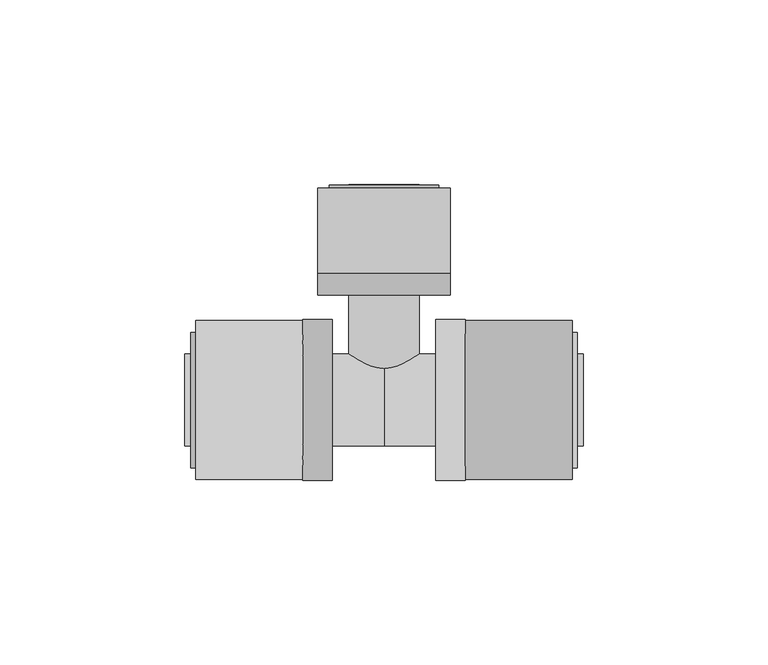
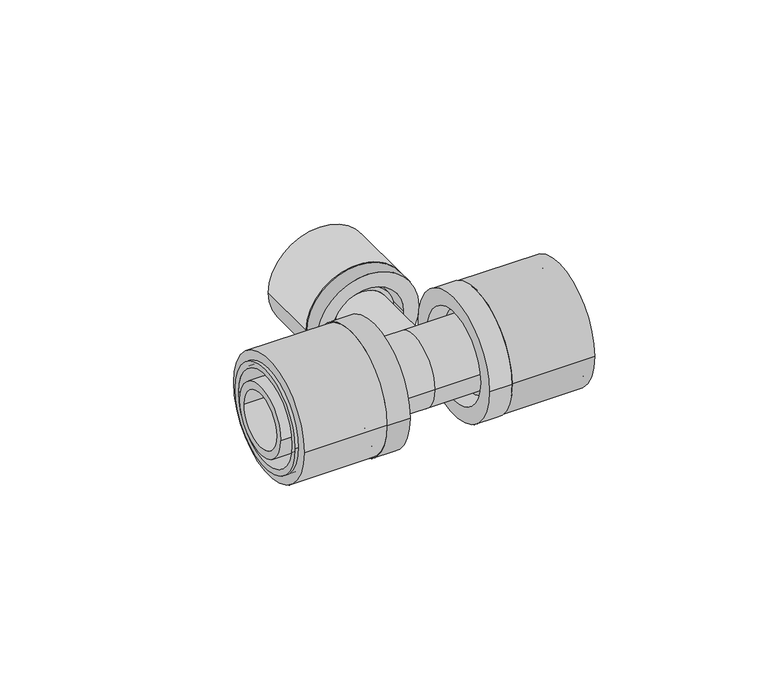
"""IFC4 building model written with IfcOpenShell, lengths in millimetres: pipe fitting geometry, FASTLOC_T-piece_EX+ : FSL T-Piece EX+ AT."""

from ifc_helpers import new_model, si_unit, point, frame, origin, origin_2d, place, context, project, spatial, polyline, circle_curve, trimmed, segment, composite_curve, outline, extrude, source, transform, mapped, element, save
from ifc_brep_helpers import plane_surface, cylinder_surface, revolved_surface, advanced_brep


def pipe_fitting_137fcba6(model_context):
    return source(origin(), model_context, "Body", "SolidModel", [
        extrude(outline(composite_curve([segment(trimmed(circle_curve(origin_2d(), 21.5), [point((-21.5, 0.0))], [point((21.5, 0.0))], False, "CARTESIAN"), True, "CONTINUOUS"), segment(trimmed(circle_curve(origin_2d(), 21.5), [point((21.5, 0.0))], [point((-21.5, 0.0))], False, "CARTESIAN"), True, "CONTINUOUS")], self_intersect=False), holes=[composite_curve([segment(trimmed(circle_curve(origin_2d(), 16.85), [point((-16.85, 0.0))], [point((16.85, 0.0))], True, "CARTESIAN"), True, "CONTINUOUS"), segment(trimmed(circle_curve(origin_2d(), 16.85), [point((16.85, 0.0))], [point((-16.85, 0.0))], True, "CARTESIAN"), True, "CONTINUOUS")], self_intersect=False)]), frame((22.0, 0.0, 0.0), z_axis=(1.0, 0.0, 0.0), x_axis=(0.0, 1.0, 0.0)), (0.0, 0.0, 1.0), 29.0),
        advanced_brep(
        [(22.0, 21.8, 0.0), (22.0, -21.8, 0.0), (14.0, -21.8, 0.0), (14.0, 21.8, 0.0), (52.3, 18.35, 0.0), (52.3, -18.35, 0.0), (22.0, -18.35, 0.0), (22.0, 18.35, 0.0), (14.0, 16.2, 0.0), (14.0, -16.2, 0.0), (52.3, -16.2, 0.0), (52.3, 16.2, 0.0)],
        [
            (0, 1, circle_curve(frame((22.0, 0.0, 0.0), z_axis=(-1.0, 0.0, 0.0), x_axis=(0.0, -1.0, 0.0)), 21.8)),
            (1, 2),
            (2, 3, circle_curve(frame((14.0, 0.0, 0.0), z_axis=(1.0, 0.0, 0.0), x_axis=(0.0, -1.0, 0.0)), 21.8)),
            (3, 0),
            (4, 5, circle_curve(frame((52.3, 0.0, 0.0), z_axis=(-1.0, 0.0, 0.0), x_axis=(0.0, -1.0, 0.0)), 18.35)),
            (5, 6),
            (6, 7, circle_curve(frame((22.0, 0.0, 0.0), z_axis=(1.0, 0.0, 0.0), x_axis=(0.0, -1.0, 0.0)), 18.35)),
            (7, 4),
            (8, 9, circle_curve(frame((14.0, 0.0, 0.0), z_axis=(-1.0, 0.0, 0.0), x_axis=(0.0, -1.0, 0.0)), 16.2)),
            (9, 10),
            (10, 11, circle_curve(frame((52.3, 0.0, 0.0), z_axis=(1.0, 0.0, 0.0), x_axis=(0.0, -1.0, 0.0)), 16.2)),
            (11, 8),
            (1, 0, circle_curve(frame((22.0, 0.0, 0.0), z_axis=(-1.0, 0.0, 0.0), x_axis=(0.0, 1.0, 0.0)), 21.8)),
            (3, 2, circle_curve(frame((14.0, 0.0, 0.0), z_axis=(1.0, 0.0, 0.0), x_axis=(0.0, 1.0, 0.0)), 21.8)),
            (6, 7, circle_curve(frame((22.0, 0.0, 0.0), z_axis=(-1.0, 0.0, 0.0), x_axis=(0.0, 1.0, 0.0)), 18.35)),
            (5, 4, circle_curve(frame((52.3, 0.0, 0.0), z_axis=(-1.0, 0.0, 0.0), x_axis=(0.0, 1.0, 0.0)), 18.35)),
            (10, 11, circle_curve(frame((52.3, 0.0, 0.0), z_axis=(-1.0, 0.0, 0.0), x_axis=(0.0, 1.0, 0.0)), 16.2)),
            (9, 8, circle_curve(frame((14.0, 0.0, 0.0), z_axis=(-1.0, 0.0, 0.0), x_axis=(0.0, 1.0, 0.0)), 16.2)),
        ],
        [
            cylinder_surface(frame((14.0, 0.0, 0.0), z_axis=(1.0, 0.0, 0.0), x_axis=(0.0, -1.0, 0.0)), 21.8),
            cylinder_surface(frame((14.0, 0.0, 0.0), z_axis=(1.0, 0.0, 0.0), x_axis=(0.0, -1.0, 0.0)), 18.35),
            revolved_surface(polyline([(52.3, -16.2, 0.0), (14.0, -16.2, 0.0)]), (14.0, 0.0, 0.0), (1.0, 0.0, 0.0)),
            cylinder_surface(frame((14.0, 0.0, 0.0), z_axis=(1.0, 0.0, 0.0), x_axis=(0.0, 1.0, 0.0)), 21.8),
            plane_surface(frame((22.0, 0.0, 0.0), z_axis=(1.0, 0.0, 0.0), x_axis=(0.0, 1.0, 0.0))),
            cylinder_surface(frame((14.0, 0.0, 0.0), z_axis=(1.0, 0.0, 0.0), x_axis=(0.0, 1.0, 0.0)), 18.35),
            plane_surface(frame((52.3, 0.0, 0.0), z_axis=(1.0, 0.0, 0.0), x_axis=(0.0, 1.0, 0.0))),
            revolved_surface(polyline([(52.3, 16.2, 0.0), (14.0, 16.2, 0.0)]), (14.0, 0.0, 0.0), (1.0, 0.0, 0.0)),
            plane_surface(frame((14.0, 0.0, 0.0), z_axis=(-1.0, 0.0, 0.0), x_axis=(0.0, 1.0, 0.0))),
        ],
        [
            (0, [[1, 2, 3, 4]]),
            (1, [[5, 6, 7, 8]]),
            (2, [[9, 10, 11, 12]]),
            (3, [[13, -4, 14, -2]]),
            (4, [[-13, -1], [15, -7]]),
            (5, [[16, -8, -15, -6]]),
            (6, [[-16, -5], [17, -11]]),
            (7, [[18, -12, -17, -10]]),
            (8, [[-14, -3], [-18, -9]]),
        ],
    ),
        extrude(outline(composite_curve([segment(trimmed(circle_curve(origin_2d(), 21.5), [point((21.5, 0.0))], [point((-21.5, 0.0))], False, "CARTESIAN"), True, "CONTINUOUS"), segment(trimmed(circle_curve(origin_2d(), 21.5), [point((-21.5, 0.0))], [point((21.5, 0.0))], False, "CARTESIAN"), True, "CONTINUOUS")], self_intersect=False), holes=[composite_curve([segment(trimmed(circle_curve(origin_2d(), 16.85), [point((16.85, 0.0))], [point((-16.85, 0.0))], True, "CARTESIAN"), True, "CONTINUOUS"), segment(trimmed(circle_curve(origin_2d(), 16.85), [point((-16.85, 0.0))], [point((16.85, 0.0))], True, "CARTESIAN"), True, "CONTINUOUS")], self_intersect=False)]), frame((-51.0, 0.0, 0.0), z_axis=(1.0, 0.0, 0.0), x_axis=(0.0, 1.0, 0.0)), (0.0, 0.0, 1.0), 29.0),
        advanced_brep(
        [(-22.0, -21.8, 0.0), (-22.0, 21.8, 0.0), (-14.0, 21.8, 0.0), (-14.0, -21.8, 0.0), (-52.3, -18.35, 0.0), (-52.3, 18.35, 0.0), (-22.0, 18.35, 0.0), (-22.0, -18.35, 0.0), (-14.0, -16.2, 0.0), (-14.0, 16.2, 0.0), (-52.3, 16.2, 0.0), (-52.3, -16.2, 0.0)],
        [
            (0, 1, circle_curve(frame((-22.0, 0.0, 0.0), z_axis=(1.0, 0.0, 0.0), x_axis=(0.0, 1.0, 0.0)), 21.8)),
            (1, 2),
            (2, 3, circle_curve(frame((-14.0, 0.0, 0.0), z_axis=(-1.0, 0.0, 0.0), x_axis=(0.0, 1.0, 0.0)), 21.8)),
            (3, 0),
            (4, 5, circle_curve(frame((-52.3, 0.0, 0.0), z_axis=(1.0, 0.0, 0.0), x_axis=(0.0, 1.0, 0.0)), 18.35)),
            (5, 6),
            (6, 7, circle_curve(frame((-22.0, 0.0, 0.0), z_axis=(-1.0, 0.0, 0.0), x_axis=(0.0, 1.0, 0.0)), 18.35)),
            (7, 4),
            (8, 9, circle_curve(frame((-14.0, 0.0, 0.0), z_axis=(1.0, 0.0, 0.0), x_axis=(0.0, 1.0, 0.0)), 16.2)),
            (9, 10),
            (10, 11, circle_curve(frame((-52.3, 0.0, 0.0), z_axis=(-1.0, 0.0, 0.0), x_axis=(0.0, 1.0, 0.0)), 16.2)),
            (11, 8),
            (1, 0, circle_curve(frame((-22.0, 0.0, 0.0), z_axis=(1.0, 0.0, 0.0), x_axis=(0.0, -1.0, 0.0)), 21.8)),
            (3, 2, circle_curve(frame((-14.0, 0.0, 0.0), z_axis=(-1.0, 0.0, 0.0), x_axis=(0.0, -1.0, 0.0)), 21.8)),
            (6, 7, circle_curve(frame((-22.0, 0.0, 0.0), z_axis=(1.0, 0.0, 0.0), x_axis=(0.0, -1.0, 0.0)), 18.35)),
            (5, 4, circle_curve(frame((-52.3, 0.0, 0.0), z_axis=(1.0, 0.0, 0.0), x_axis=(0.0, -1.0, 0.0)), 18.35)),
            (10, 11, circle_curve(frame((-52.3, 0.0, 0.0), z_axis=(1.0, 0.0, 0.0), x_axis=(0.0, -1.0, 0.0)), 16.2)),
            (9, 8, circle_curve(frame((-14.0, 0.0, 0.0), z_axis=(1.0, 0.0, 0.0), x_axis=(0.0, -1.0, 0.0)), 16.2)),
        ],
        [
            cylinder_surface(frame((-14.0, 0.0, 0.0), z_axis=(-1.0, 0.0, 0.0), x_axis=(0.0, 1.0, 0.0)), 21.8),
            cylinder_surface(frame((-14.0, 0.0, 0.0), z_axis=(-1.0, 0.0, 0.0), x_axis=(0.0, 1.0, 0.0)), 18.35),
            revolved_surface(polyline([(-52.3, 16.2, 0.0), (-14.0, 16.2, 0.0)]), (-14.0, 0.0, 0.0), (-1.0, 0.0, 0.0)),
            cylinder_surface(frame((-14.0, 0.0, 0.0), z_axis=(-1.0, 0.0, 0.0), x_axis=(0.0, -1.0, 0.0)), 21.8),
            plane_surface(frame((-22.0, 0.0, 0.0), z_axis=(-1.0, 0.0, 0.0), x_axis=(0.0, -1.0, 0.0))),
            cylinder_surface(frame((-14.0, 0.0, 0.0), z_axis=(-1.0, 0.0, 0.0), x_axis=(0.0, -1.0, 0.0)), 18.35),
            plane_surface(frame((-52.3, 0.0, 0.0), z_axis=(-1.0, 0.0, 0.0), x_axis=(0.0, -1.0, 0.0))),
            revolved_surface(polyline([(-52.3, -16.2, 0.0), (-14.0, -16.2, 0.0)]), (-14.0, 0.0, 0.0), (-1.0, 0.0, 0.0)),
            plane_surface(frame((-14.0, 0.0, 0.0), z_axis=(1.0, 0.0, 0.0), x_axis=(0.0, -1.0, 0.0))),
        ],
        [
            (0, [[1, 2, 3, 4]]),
            (1, [[5, 6, 7, 8]]),
            (2, [[9, 10, 11, 12]]),
            (3, [[13, -4, 14, -2]]),
            (4, [[-13, -1], [15, -7]]),
            (5, [[16, -8, -15, -6]]),
            (6, [[-16, -5], [17, -11]]),
            (7, [[18, -12, -17, -10]]),
            (8, [[-14, -3], [-18, -9]]),
        ],
    ),
        extrude(outline(composite_curve([segment(trimmed(circle_curve(origin_2d(), 18.0), [point((0.0, 18.0))], [point((0.0, -18.0))], False, "CARTESIAN"), True, "CONTINUOUS"), segment(trimmed(circle_curve(origin_2d(), 18.0), [point((0.0, -18.0))], [point((0.0, 18.0))], False, "CARTESIAN"), True, "CONTINUOUS")], self_intersect=False), holes=[composite_curve([segment(trimmed(circle_curve(origin_2d(), 13.5), [point((0.0, 13.5))], [point((0.0, -13.5))], True, "CARTESIAN"), True, "CONTINUOUS"), segment(trimmed(circle_curve(origin_2d(), 13.5), [point((0.0, -13.5))], [point((0.0, 13.5))], True, "CARTESIAN"), True, "CONTINUOUS")], self_intersect=False)]), frame((0.0, 34.4, 0.0), z_axis=(0.0, 1.0, 0.0), x_axis=(0.0, 0.0, 1.0)), (0.0, 0.0, 1.0), 23.0),
        advanced_brep(
        [(-18.0, 34.4, 0.0), (18.0, 34.4, 0.0), (18.0, 28.4, 0.0), (-18.0, 28.4, 0.0), (-14.85, 58.2, 0.0), (14.85, 58.2, 0.0), (14.85, 34.4, 0.0), (-14.85, 34.4, 0.0), (-12.65, 28.4, 0.0), (12.65, 28.4, 0.0), (12.65, 58.2, 0.0), (-12.65, 58.2, 0.0)],
        [
            (0, 1, circle_curve(frame((0.0, 34.4, 0.0), z_axis=(0.0, -1.0, 0.0), x_axis=(1.0, 0.0, 0.0)), 18.0)),
            (1, 2),
            (2, 3, circle_curve(frame((0.0, 28.4, 0.0), z_axis=(0.0, 1.0, 0.0), x_axis=(1.0, 0.0, 0.0)), 18.0)),
            (3, 0),
            (4, 5, circle_curve(frame((0.0, 58.2, 0.0), z_axis=(0.0, -1.0, 0.0), x_axis=(1.0, 0.0, 0.0)), 14.85)),
            (5, 6),
            (6, 7, circle_curve(frame((0.0, 34.4, 0.0), z_axis=(0.0, 1.0, 0.0), x_axis=(1.0, 0.0, 0.0)), 14.85)),
            (7, 4),
            (8, 9, circle_curve(frame((0.0, 28.4, 0.0), z_axis=(0.0, -1.0, 0.0), x_axis=(1.0, 0.0, 0.0)), 12.65)),
            (9, 10),
            (10, 11, circle_curve(frame((0.0, 58.2, 0.0), z_axis=(0.0, 1.0, 0.0), x_axis=(1.0, 0.0, 0.0)), 12.65)),
            (11, 8),
            (1, 0, circle_curve(frame((0.0, 34.4, 0.0), z_axis=(0.0, -1.0, 0.0), x_axis=(-1.0, 0.0, 0.0)), 18.0)),
            (3, 2, circle_curve(frame((0.0, 28.4, 0.0), z_axis=(0.0, 1.0, 0.0), x_axis=(-1.0, 0.0, 0.0)), 18.0)),
            (6, 7, circle_curve(frame((0.0, 34.4, 0.0), z_axis=(0.0, -1.0, 0.0), x_axis=(-1.0, 0.0, 0.0)), 14.85)),
            (5, 4, circle_curve(frame((0.0, 58.2, 0.0), z_axis=(0.0, -1.0, 0.0), x_axis=(-1.0, 0.0, 0.0)), 14.85)),
            (10, 11, circle_curve(frame((0.0, 58.2, 0.0), z_axis=(0.0, -1.0, 0.0), x_axis=(-1.0, 0.0, 0.0)), 12.65)),
            (9, 8, circle_curve(frame((0.0, 28.4, 0.0), z_axis=(0.0, -1.0, 0.0), x_axis=(-1.0, 0.0, 0.0)), 12.65)),
        ],
        [
            cylinder_surface(frame((0.0, 28.4, 0.0), z_axis=(0.0, 1.0, 0.0), x_axis=(1.0, 0.0, 0.0)), 18.0),
            cylinder_surface(frame((0.0, 28.4, 0.0), z_axis=(0.0, 1.0, 0.0), x_axis=(1.0, 0.0, 0.0)), 14.85),
            revolved_surface(polyline([(12.65, 58.2, 0.0), (12.65, 28.4, 0.0)]), (0.0, 28.4, 0.0), (0.0, 1.0, 0.0)),
            cylinder_surface(frame((0.0, 28.4, 0.0), z_axis=(0.0, 1.0, 0.0), x_axis=(-1.0, 0.0, 0.0)), 18.0),
            plane_surface(frame((0.0, 34.4, 0.0), z_axis=(0.0, 1.0, 0.0), x_axis=(-1.0, 0.0, 0.0))),
            cylinder_surface(frame((0.0, 28.4, 0.0), z_axis=(0.0, 1.0, 0.0), x_axis=(-1.0, 0.0, 0.0)), 14.85),
            plane_surface(frame((0.0, 58.2, 0.0), z_axis=(0.0, 1.0, 0.0), x_axis=(-1.0, 0.0, 0.0))),
            revolved_surface(polyline([(-12.65, 58.2, 0.0), (-12.65, 28.4, 0.0)]), (0.0, 28.4, 0.0), (0.0, 1.0, 0.0)),
            plane_surface(frame((0.0, 28.4, 0.0), z_axis=(0.0, -1.0, 0.0), x_axis=(-1.0, 0.0, 0.0))),
        ],
        [
            (0, [[1, 2, 3, 4]]),
            (1, [[5, 6, 7, 8]]),
            (2, [[9, 10, 11, 12]]),
            (3, [[13, -4, 14, -2]]),
            (4, [[-13, -1], [15, -7]]),
            (5, [[16, -8, -15, -6]]),
            (6, [[-16, -5], [17, -11]]),
            (7, [[18, -12, -17, -10]]),
            (8, [[-14, -3], [-18, -9]]),
        ],
    ),
        advanced_brep(
        [(0.0, 12.5, 0.0), (0.0, -12.5, 0.0), (-19.0, -12.5, 0.0), (-19.0, 12.5, 0.0), (19.0, 12.5, 0.0), (19.0, -12.5, 0.0), (22.0, 14.1, 0.0), (22.0, -14.1, 0.0), (19.0, -14.1, 0.0), (19.0, 14.1, 0.0), (54.0, 12.5, 0.0), (54.0, -12.5, 0.0), (22.0, -12.5, 0.0), (22.0, 12.5, 0.0), (-54.0, 9.85, 0.0), (-54.0, -9.85, 0.0), (54.0, -9.85, 0.0), (54.0, 9.85, 0.0), (-22.0, 12.5, 0.0), (-22.0, -12.5, 0.0), (-54.0, -12.5, 0.0), (-54.0, 12.5, 0.0), (-19.0, 14.1, 0.0), (-19.0, -14.1, 0.0), (-22.0, -14.1, 0.0), (-22.0, 14.1, 0.0)],
        [
            (0, 1, circle_curve(frame((0.0, 0.0, 0.0), z_axis=(-1.0, 0.0, 0.0), x_axis=(0.0, -1.0, 0.0)), 12.5)),
            (1, 2),
            (2, 3, circle_curve(frame((-19.0, 0.0, 0.0), z_axis=(1.0, 0.0, 0.0), x_axis=(0.0, -1.0, 0.0)), 12.5)),
            (3, 0),
            (4, 5, circle_curve(frame((19.0, 0.0, 0.0), z_axis=(-1.0, 0.0, 0.0), x_axis=(0.0, -1.0, 0.0)), 12.5)),
            (5, 1),
            (0, 4),
            (6, 7, circle_curve(frame((22.0, 0.0, 0.0), z_axis=(-1.0, 0.0, 0.0), x_axis=(0.0, -1.0, 0.0)), 14.1)),
            (7, 8),
            (8, 9, circle_curve(frame((19.0, 0.0, 0.0), z_axis=(1.0, 0.0, 0.0), x_axis=(0.0, -1.0, 0.0)), 14.1)),
            (9, 6),
            (10, 11, circle_curve(frame((54.0, 0.0, 0.0), z_axis=(-1.0, 0.0, 0.0), x_axis=(0.0, -1.0, 0.0)), 12.5)),
            (11, 12),
            (12, 13, circle_curve(frame((22.0, 0.0, 0.0), z_axis=(1.0, 0.0, 0.0), x_axis=(0.0, -1.0, 0.0)), 12.5)),
            (13, 10),
            (14, 15, circle_curve(frame((-54.0, 0.0, 0.0), z_axis=(-1.0, 0.0, 0.0), x_axis=(0.0, -1.0, 0.0)), 9.85)),
            (15, 16),
            (16, 17, circle_curve(frame((54.0, 0.0, 0.0), z_axis=(1.0, 0.0, 0.0), x_axis=(0.0, -1.0, 0.0)), 9.85)),
            (17, 14),
            (18, 19, circle_curve(frame((-22.0, 0.0, 0.0), z_axis=(-1.0, 0.0, 0.0), x_axis=(0.0, -1.0, 0.0)), 12.5)),
            (19, 20),
            (20, 21, circle_curve(frame((-54.0, 0.0, 0.0), z_axis=(1.0, 0.0, 0.0), x_axis=(0.0, -1.0, 0.0)), 12.5)),
            (21, 18),
            (22, 23, circle_curve(frame((-19.0, 0.0, 0.0), z_axis=(-1.0, 0.0, 0.0), x_axis=(0.0, -1.0, 0.0)), 14.1)),
            (23, 24),
            (24, 25, circle_curve(frame((-22.0, 0.0, 0.0), z_axis=(1.0, 0.0, 0.0), x_axis=(0.0, -1.0, 0.0)), 14.1)),
            (25, 22),
            (22, 23, circle_curve(frame((-19.0, 0.0, 0.0), z_axis=(1.0, 0.0, 0.0), x_axis=(0.0, 1.0, 0.0)), 14.1)),
            (2, 3, circle_curve(frame((-19.0, 0.0, 0.0), z_axis=(-1.0, 0.0, 0.0), x_axis=(0.0, 1.0, 0.0)), 12.5)),
            (1, 0, circle_curve(frame((0.0, 0.0, 0.0), z_axis=(-1.0, 0.0, 0.0), x_axis=(0.0, 1.0, 0.0)), 12.5)),
            (5, 4, circle_curve(frame((19.0, 0.0, 0.0), z_axis=(-1.0, 0.0, 0.0), x_axis=(0.0, 1.0, 0.0)), 12.5)),
            (8, 9, circle_curve(frame((19.0, 0.0, 0.0), z_axis=(-1.0, 0.0, 0.0), x_axis=(0.0, 1.0, 0.0)), 14.1)),
            (7, 6, circle_curve(frame((22.0, 0.0, 0.0), z_axis=(-1.0, 0.0, 0.0), x_axis=(0.0, 1.0, 0.0)), 14.1)),
            (12, 13, circle_curve(frame((22.0, 0.0, 0.0), z_axis=(-1.0, 0.0, 0.0), x_axis=(0.0, 1.0, 0.0)), 12.5)),
            (11, 10, circle_curve(frame((54.0, 0.0, 0.0), z_axis=(-1.0, 0.0, 0.0), x_axis=(0.0, 1.0, 0.0)), 12.5)),
            (16, 17, circle_curve(frame((54.0, 0.0, 0.0), z_axis=(-1.0, 0.0, 0.0), x_axis=(0.0, 1.0, 0.0)), 9.85)),
            (15, 14, circle_curve(frame((-54.0, 0.0, 0.0), z_axis=(-1.0, 0.0, 0.0), x_axis=(0.0, 1.0, 0.0)), 9.85)),
            (20, 21, circle_curve(frame((-54.0, 0.0, 0.0), z_axis=(-1.0, 0.0, 0.0), x_axis=(0.0, 1.0, 0.0)), 12.5)),
            (19, 18, circle_curve(frame((-22.0, 0.0, 0.0), z_axis=(-1.0, 0.0, 0.0), x_axis=(0.0, 1.0, 0.0)), 12.5)),
            (24, 25, circle_curve(frame((-22.0, 0.0, 0.0), z_axis=(-1.0, 0.0, 0.0), x_axis=(0.0, 1.0, 0.0)), 14.1)),
        ],
        [
            cylinder_surface(frame((0.0, 0.0, 0.0), z_axis=(1.0, 0.0, 0.0), x_axis=(0.0, -1.0, 0.0)), 12.5),
            cylinder_surface(frame((0.0, 0.0, 0.0), z_axis=(1.0, 0.0, 0.0), x_axis=(0.0, -1.0, 0.0)), 14.1),
            revolved_surface(polyline([(54.0, -9.85, 0.0), (-54.0, -9.85, 0.0)]), (0.0, 0.0, 0.0), (1.0, 0.0, 0.0)),
            plane_surface(frame((-19.0, 0.0, 0.0), z_axis=(1.0, 0.0, 0.0), x_axis=(0.0, 1.0, 0.0))),
            cylinder_surface(frame((0.0, 0.0, 0.0), z_axis=(1.0, 0.0, 0.0), x_axis=(0.0, 1.0, 0.0)), 12.5),
            plane_surface(frame((19.0, 0.0, 0.0), z_axis=(-1.0, 0.0, 0.0), x_axis=(0.0, 1.0, 0.0))),
            cylinder_surface(frame((0.0, 0.0, 0.0), z_axis=(1.0, 0.0, 0.0), x_axis=(0.0, 1.0, 0.0)), 14.1),
            plane_surface(frame((22.0, 0.0, 0.0), z_axis=(1.0, 0.0, 0.0), x_axis=(0.0, 1.0, 0.0))),
            plane_surface(frame((54.0, 0.0, 0.0), z_axis=(1.0, 0.0, 0.0), x_axis=(0.0, 1.0, 0.0))),
            revolved_surface(polyline([(54.0, 9.85, 0.0), (-54.0, 9.85, 0.0)]), (0.0, 0.0, 0.0), (1.0, 0.0, 0.0)),
            plane_surface(frame((-54.0, 0.0, 0.0), z_axis=(-1.0, 0.0, 0.0), x_axis=(0.0, 1.0, 0.0))),
            plane_surface(frame((-22.0, 0.0, 0.0), z_axis=(-1.0, 0.0, 0.0), x_axis=(0.0, 1.0, 0.0))),
        ],
        [
            (0, [[1, 2, 3, 4]]),
            (0, [[5, 6, -1, 7]]),
            (1, [[8, 9, 10, 11]]),
            (0, [[12, 13, 14, 15]]),
            (2, [[16, 17, 18, 19]]),
            (0, [[20, 21, 22, 23]]),
            (1, [[24, 25, 26, 27]]),
            (3, [[28, -24], [29, -3]]),
            (4, [[30, -4, -29, -2]]),
            (4, [[31, -7, -30, -6]]),
            (5, [[32, -10], [-31, -5]]),
            (6, [[33, -11, -32, -9]]),
            (7, [[-33, -8], [34, -14]]),
            (4, [[35, -15, -34, -13]]),
            (8, [[-35, -12], [36, -18]]),
            (9, [[37, -19, -36, -17]]),
            (10, [[38, -22], [-37, -16]]),
            (4, [[39, -23, -38, -21]]),
            (11, [[40, -26], [-39, -20]]),
            (6, [[-28, -27, -40, -25]]),
        ],
    ),
        advanced_brep(
        [(7.35, 58.4, 0.0), (-7.35, 58.4, 0.0), (-7.35, 0.0, 0.0), (7.35, 0.0, 0.0), (9.6, 0.0, 0.0), (-9.6, 0.0, 0.0), (-9.6, 31.6, 0.0), (9.6, 31.6, 0.0), (11.1, 31.6, 0.0), (-11.1, 31.6, 0.0), (-11.1, 34.4, 0.0), (11.1, 34.4, 0.0), (9.6, 34.4, 0.0), (-9.6, 34.4, 0.0), (-9.6, 58.4, 0.0), (9.6, 58.4, 0.0)],
        [
            (0, 1, circle_curve(frame((0.0, 58.4, 0.0), z_axis=(0.0, 1.0, 0.0), x_axis=(-1.0, 0.0, 0.0)), 7.35)),
            (1, 2),
            (2, 3, circle_curve(frame((0.0, 0.0, 0.0), z_axis=(0.0, -1.0, 0.0), x_axis=(-1.0, 0.0, 0.0)), 7.35)),
            (3, 0),
            (4, 5, circle_curve(frame((0.0, 0.0, 0.0), z_axis=(0.0, 1.0, 0.0), x_axis=(-1.0, 0.0, 0.0)), 9.6)),
            (5, 6),
            (6, 7, circle_curve(frame((0.0, 31.6, 0.0), z_axis=(0.0, -1.0, 0.0), x_axis=(-1.0, 0.0, 0.0)), 9.6)),
            (7, 4),
            (8, 9, circle_curve(frame((0.0, 31.6, 0.0), z_axis=(0.0, 1.0, 0.0), x_axis=(-1.0, 0.0, 0.0)), 11.1)),
            (9, 10),
            (10, 11, circle_curve(frame((0.0, 34.4, 0.0), z_axis=(0.0, -1.0, 0.0), x_axis=(-1.0, 0.0, 0.0)), 11.1)),
            (11, 8),
            (12, 13, circle_curve(frame((0.0, 34.4, 0.0), z_axis=(0.0, 1.0, 0.0), x_axis=(-1.0, 0.0, 0.0)), 9.6)),
            (13, 14),
            (14, 15, circle_curve(frame((0.0, 58.4, 0.0), z_axis=(0.0, -1.0, 0.0), x_axis=(-1.0, 0.0, 0.0)), 9.6)),
            (15, 12),
            (1, 0, circle_curve(frame((0.0, 58.4, 0.0), z_axis=(0.0, 1.0, 0.0), x_axis=(1.0, 0.0, 0.0)), 7.35)),
            (3, 2, circle_curve(frame((0.0, 0.0, 0.0), z_axis=(0.0, -1.0, 0.0), x_axis=(1.0, 0.0, 0.0)), 7.35)),
            (4, 5, circle_curve(frame((0.0, 0.0, 0.0), z_axis=(0.0, -1.0, 0.0), x_axis=(1.0, 0.0, 0.0)), 9.6)),
            (7, 6, circle_curve(frame((0.0, 31.6, 0.0), z_axis=(0.0, -1.0, 0.0), x_axis=(1.0, 0.0, 0.0)), 9.6)),
            (8, 9, circle_curve(frame((0.0, 31.6, 0.0), z_axis=(0.0, -1.0, 0.0), x_axis=(1.0, 0.0, 0.0)), 11.1)),
            (11, 10, circle_curve(frame((0.0, 34.4, 0.0), z_axis=(0.0, -1.0, 0.0), x_axis=(1.0, 0.0, 0.0)), 11.1)),
            (12, 13, circle_curve(frame((0.0, 34.4, 0.0), z_axis=(0.0, -1.0, 0.0), x_axis=(1.0, 0.0, 0.0)), 9.6)),
            (15, 14, circle_curve(frame((0.0, 58.4, 0.0), z_axis=(0.0, -1.0, 0.0), x_axis=(1.0, 0.0, 0.0)), 9.6)),
        ],
        [
            revolved_surface(polyline([(-7.35, 0.0, 0.0), (-7.35, 58.4, 0.0)]), (0.0, 0.0, 0.0), (0.0, -1.0, 0.0)),
            cylinder_surface(frame((0.0, 0.0, 0.0), z_axis=(0.0, -1.0, 0.0), x_axis=(-1.0, 0.0, 0.0)), 9.6),
            cylinder_surface(frame((0.0, 0.0, 0.0), z_axis=(0.0, -1.0, 0.0), x_axis=(-1.0, 0.0, 0.0)), 11.1),
            revolved_surface(polyline([(7.35, 0.0, 0.0), (7.35, 58.4, 0.0)]), (0.0, 0.0, 0.0), (0.0, -1.0, 0.0)),
            plane_surface(frame((0.0, 0.0, 0.0), z_axis=(0.0, -1.0, 0.0), x_axis=(1.0, 0.0, 0.0))),
            cylinder_surface(frame((0.0, 0.0, 0.0), z_axis=(0.0, -1.0, 0.0), x_axis=(1.0, 0.0, 0.0)), 9.6),
            plane_surface(frame((0.0, 31.6, 0.0), z_axis=(0.0, -1.0, 0.0), x_axis=(1.0, 0.0, 0.0))),
            cylinder_surface(frame((0.0, 0.0, 0.0), z_axis=(0.0, -1.0, 0.0), x_axis=(1.0, 0.0, 0.0)), 11.1),
            plane_surface(frame((0.0, 34.4, 0.0), z_axis=(0.0, 1.0, 0.0), x_axis=(1.0, 0.0, 0.0))),
            plane_surface(frame((0.0, 58.4, 0.0), z_axis=(0.0, 1.0, 0.0), x_axis=(1.0, 0.0, 0.0))),
        ],
        [
            (0, [[1, 2, 3, 4]]),
            (1, [[5, 6, 7, 8]]),
            (2, [[9, 10, 11, 12]]),
            (1, [[13, 14, 15, 16]]),
            (3, [[17, -4, 18, -2]]),
            (4, [[19, -5], [-18, -3]]),
            (5, [[-19, -8, 20, -6]]),
            (6, [[21, -9], [-20, -7]]),
            (7, [[-21, -12, 22, -10]]),
            (8, [[-22, -11], [23, -13]]),
            (5, [[-23, -16, 24, -14]]),
            (9, [[-24, -15], [-17, -1]]),
        ],
    ),
    ])


if __name__ == "__main__":
    model = new_model("IFC4")
    model_context = context("Model", 3, world=origin())
    ifc_project = project(units=[si_unit("LENGTHUNIT", "METRE", prefix="MILLI")], contexts=[model_context])
    site = spatial("IfcSite", under=ifc_project)
    building = spatial("IfcBuilding", under=site)
    placement = place(None, origin())
    pipe_fitting_shape = pipe_fitting_137fcba6(model_context)
    element("IfcPipeFitting", 1, ObjectType="FASTLOC_T-piece_EX+ : FSL T-Piece EX+ AT", at=placement, inside=building, context=model_context, shape_type="MappedRepresentation", body=[
        mapped(pipe_fitting_shape, transform((0.0, 0.0, 0.0), x_axis=(1.0, 0.0, 0.0), y_axis=(0.0, 1.0, 0.0), z_axis=(0.0, 0.0, 1.0))),
    ])
    save(model, "model.ifc")
